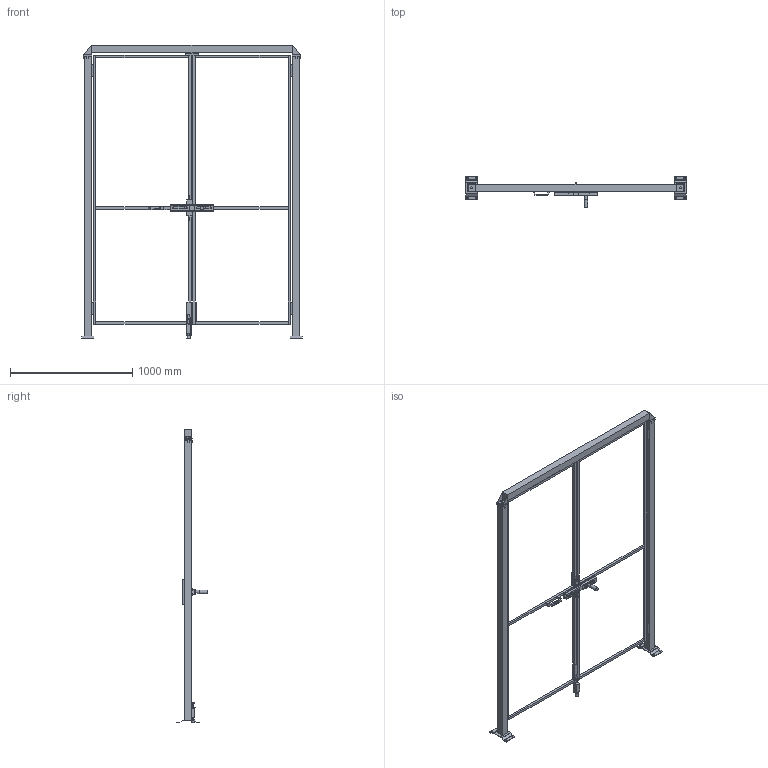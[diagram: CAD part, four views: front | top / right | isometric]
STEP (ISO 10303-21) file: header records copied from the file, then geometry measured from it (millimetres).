
FILE_DESCRIPTION(/* description */ (''),/* implementation_level */ '2;1');
FILE_NAME(/* name */ 'C:\SafeGuarding\ELABORATI\VZOR§DVOUKŘÍDLÉ_2025-02-03-09-59-39.stp',/* time_stamp */ '2025-02-03T09:59:41+01:00',/* author */ ('admin'),/* organization */ (''),/* preprocessor_version */ 'ST-DEVELOPER v18.1',/* originating_system */ 'AutoCAD Mechanical',/* authorisation */ '');
FILE_SCHEMA (('AUTOMOTIVE_DESIGN { 1 0 10303 214 3 1 1 }'));
Length unit declared in the file: millimetre
Products named in the file (5): Product; *U5; DATI_PORTA; P_VFMA.ME60SDU.2320; R_VFPA.REPE20.08002200
Assembly tree (6 placements, depth 2):
  Product
    R_VFPA.REPE20.08002200  x2
    P_VFMA.ME60SDU.2320  x2
    *U5
    DATI_PORTA
Bounding box: 1805 x 255.82 x 2400.5 mm (x, y, z)
Volume: 29059034.6 mm3; surface area: 3164567.4 mm2
Topology: 35 solids, 46 shells, 428 faces, 1354 edges, 1282 vertices
Faces by surface type: plane 384, cylinder 42, cone 2
Full cylindrical faces by diameter (mm): 11 x25, 12 x1, 14 x2, 24 x1, 30 x1
Entity records: 12068 total; most frequent: CARTESIAN_POINT 2514, DIRECTION 1827, ORIENTED_EDGE 1748, EDGE_CURVE 923, LINE 849, VECTOR 849, VERTEX_POINT 651, AXIS2_PLACEMENT_3D 489
